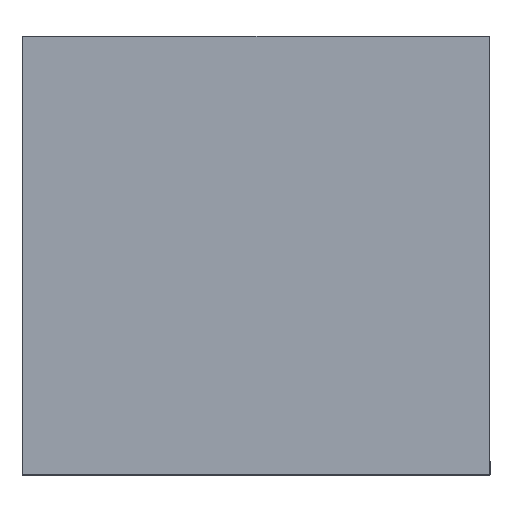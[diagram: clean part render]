
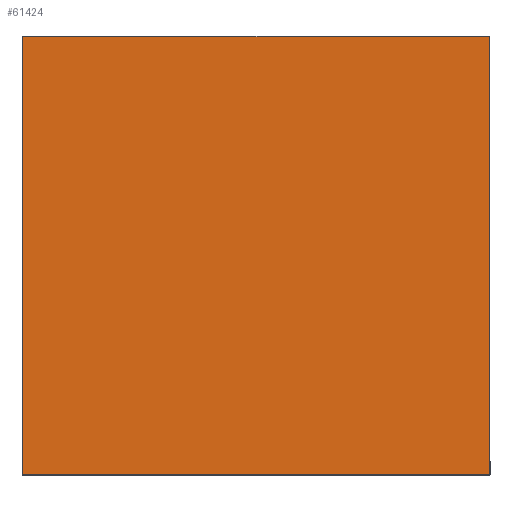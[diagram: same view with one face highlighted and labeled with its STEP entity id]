
A CAD part, top view. The second image highlights one B-rep face of the part: STEP entity #61424.
In plain terms, the highlighted planar face has unit normal (0, 0, 1).
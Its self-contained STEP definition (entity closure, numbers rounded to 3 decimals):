
#2934=PLANE('',#65223);
#13662=ORIENTED_EDGE('',*,*,#27592,.T.);
#13663=ORIENTED_EDGE('',*,*,#27593,.T.);
#13664=ORIENTED_EDGE('',*,*,#27594,.T.);
#13665=ORIENTED_EDGE('',*,*,#27595,.T.);
#27592=EDGE_CURVE('',#35250,#35225,#42119,.T.);
#27593=EDGE_CURVE('',#35225,#35240,#42120,.T.);
#27594=EDGE_CURVE('',#35240,#35257,#42121,.T.);
#27595=EDGE_CURVE('',#35257,#35250,#42122,.T.);
#35225=VERTEX_POINT('',#91311);
#35240=VERTEX_POINT('',#91349);
#35250=VERTEX_POINT('',#91376);
#35257=VERTEX_POINT('',#91390);
#42119=LINE('',#91414,#48435);
#42120=LINE('',#91415,#48436);
#42121=LINE('',#91416,#48437);
#42122=LINE('',#91417,#48438);
#48435=VECTOR('',#75213,1000.);
#48436=VECTOR('',#75214,1000.);
#48437=VECTOR('',#75215,1000.);
#48438=VECTOR('',#75216,1000.);
#53275=EDGE_LOOP('',(#13662,#13663,#13664,#13665));
#57416=FACE_BOUND('',#53275,.T.);
#61424=ADVANCED_FACE('',(#57416),#2934,.T.);
#65223=AXIS2_PLACEMENT_3D('',#91413,#75211,#75212);
#75211=DIRECTION('',(0.,0.,1.));
#75212=DIRECTION('',(1.,0.,0.));
#75213=DIRECTION('',(0.,-1.,0.));
#75214=DIRECTION('',(1.,0.,0.));
#75215=DIRECTION('',(0.,1.,0.));
#75216=DIRECTION('',(-1.,0.,0.));
#91311=CARTESIAN_POINT('',(-295.9,-277.55,0.7));
#91349=CARTESIAN_POINT('',(295.9,-277.55,0.7));
#91376=CARTESIAN_POINT('',(-295.9,277.55,0.7));
#91390=CARTESIAN_POINT('',(295.9,277.55,0.7));
#91413=CARTESIAN_POINT('',(0.,0.,0.7));
#91414=CARTESIAN_POINT('',(-295.9,277.55,0.7));
#91415=CARTESIAN_POINT('',(-295.9,-277.55,0.7));
#91416=CARTESIAN_POINT('',(295.9,-277.55,0.7));
#91417=CARTESIAN_POINT('',(295.9,277.55,0.7));
